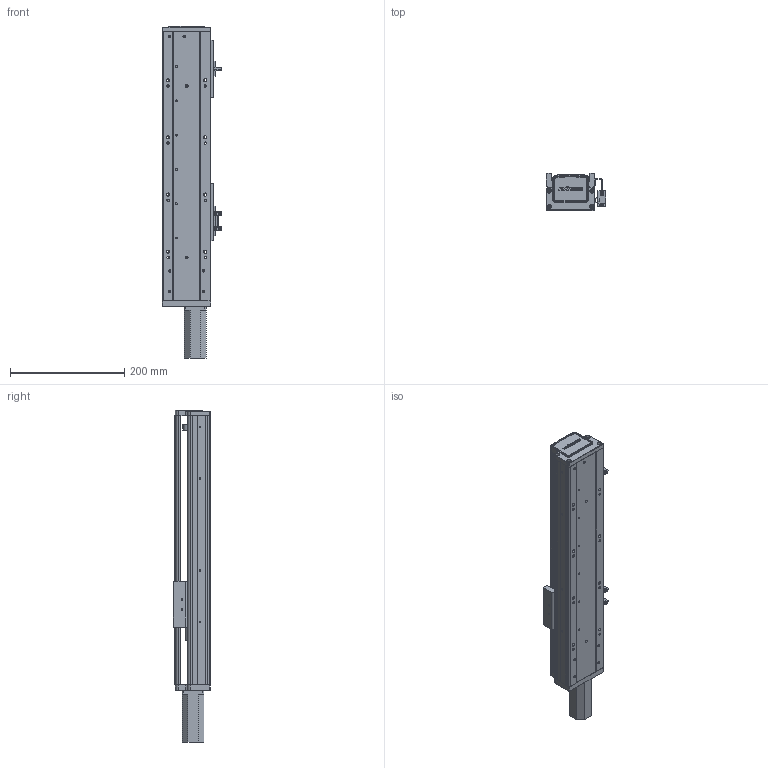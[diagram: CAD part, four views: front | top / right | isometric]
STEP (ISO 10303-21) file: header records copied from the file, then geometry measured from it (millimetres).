
FILE_DESCRIPTION (( 'STEP AP203' ), '1' );
FILE_NAME ('RY80-L1620-300-MK(100W).SLDASM_250.step', '2021-02-20T02:19:31', ( '' ), ( '' ), 'SwSTEP 2.0', 'SolidWorks 2012', '' );
FILE_SCHEMA (( 'CONFIG_CONTROL_DESIGN' ));
Length unit declared in the file: millimetre
Products named in the file (12): 侂狟100W; RY80-L1620-300-MK(100W).SLDASM_250; 覜茼ん672; 672嫖萇羲壽假蚾釱; 滅袉蝶18-24; RY80俋离覜茼え; 滅袉蝶18-10; RY80前盖板(100W电机)M3; RY80綴裔啣; RY80-300-MK倰第菁釱_250; RY80-300-MK倰第奻裔啣_250; RY80臏賑輸
Assembly tree (14 placements, depth 2):
  RY80-L1620-300-MK(100W).SLDASM_250
    RY80-300-MK倰第菁釱_250
    RY80臏賑輸
    RY80-300-MK倰第奻裔啣_250
    RY80前盖板(100W电机)M3
    RY80綴裔啣
    滅袉蝶18-10
    672嫖萇羲壽假蚾釱  x2
    覜茼ん672  x3
    RY80俋离覜茼え
    滅袉蝶18-24
    侂狟100W
Bounding box: 103.7 x 65 x 581 mm (x, y, z)
Volume: 936255.4 mm3; surface area: 375047.5 mm2
Topology: 14 solids, 14 shells, 1473 faces, 4101 edges, 2677 vertices
Faces by surface type: plane 884, cylinder 485, cone 70, bspline 34
Entity records: 44878 total; most frequent: CARTESIAN_POINT 11267, ORIENTED_EDGE 6970, DIRECTION 6314, EDGE_CURVE 3485, VERTEX_POINT 2293, LINE 2258, VECTOR 2258, AXIS2_PLACEMENT_3D 2028
